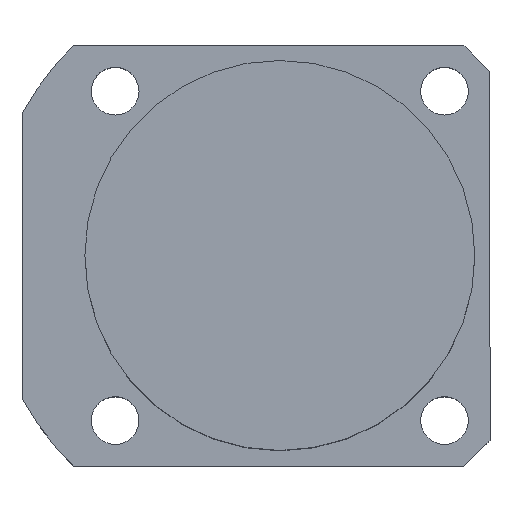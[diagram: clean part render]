
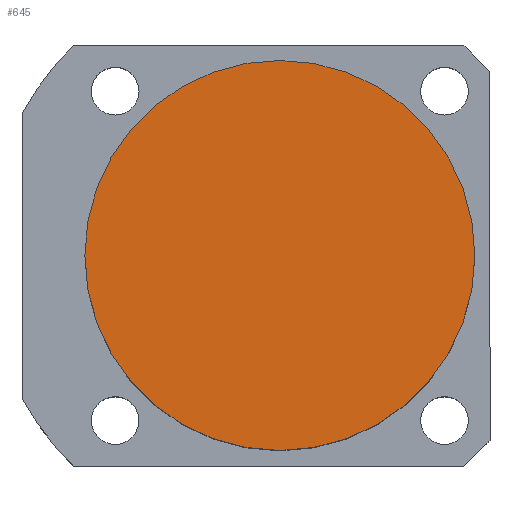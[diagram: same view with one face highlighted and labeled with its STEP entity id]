
A CAD part, top view. The second image highlights one B-rep face of the part: STEP entity #645.
In plain terms, the highlighted planar face has unit normal (0, 0, 1).
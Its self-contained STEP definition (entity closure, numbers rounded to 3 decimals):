
#50 = PLANE ( 'NONE',  #383 ) ;
#168 = VERTEX_POINT ( 'NONE', #1739 ) ;
#201 = CARTESIAN_POINT ( 'NONE',  ( 45., 0., 69.5 ) ) ;
#360 = CARTESIAN_POINT ( 'NONE',  ( 0., 0., 69.5 ) ) ;
#383 = AXIS2_PLACEMENT_3D ( 'NONE', #701, #1545, #1195 ) ;
#645 = ADVANCED_FACE ( 'NONE', ( #2095 ), #50, .T. ) ;
#681 = VERTEX_POINT ( 'NONE', #201 ) ;
#696 = CIRCLE ( 'NONE', #736, 45. ) ;
#701 = CARTESIAN_POINT ( 'NONE',  ( 0., 0., 69.5 ) ) ;
#715 = DIRECTION ( 'NONE',  ( 1., 0., 0. ) ) ;
#736 = AXIS2_PLACEMENT_3D ( 'NONE', #797, #1109, #1986 ) ;
#797 = CARTESIAN_POINT ( 'NONE',  ( 0., 0., 69.5 ) ) ;
#1109 = DIRECTION ( 'NONE',  ( 0., 0., 1. ) ) ;
#1193 = ORIENTED_EDGE ( 'NONE', *, *, #2073, .T. ) ;
#1195 = DIRECTION ( 'NONE',  ( 1., 0., 0. ) ) ;
#1349 = EDGE_LOOP ( 'NONE', ( #1835, #1193 ) ) ;
#1363 = DIRECTION ( 'NONE',  ( 0., 0., 1. ) ) ;
#1397 = EDGE_CURVE ( 'NONE', #168, #681, #696, .T. ) ;
#1545 = DIRECTION ( 'NONE',  ( 0., 0., 1. ) ) ;
#1706 = CIRCLE ( 'NONE', #1710, 45. ) ;
#1710 = AXIS2_PLACEMENT_3D ( 'NONE', #360, #1363, #715 ) ;
#1739 = CARTESIAN_POINT ( 'NONE',  ( -45., 0., 69.5 ) ) ;
#1835 = ORIENTED_EDGE ( 'NONE', *, *, #1397, .T. ) ;
#1986 = DIRECTION ( 'NONE',  ( 1., 0., 0. ) ) ;
#2073 = EDGE_CURVE ( 'NONE', #681, #168, #1706, .T. ) ;
#2095 = FACE_OUTER_BOUND ( 'NONE', #1349, .T. ) ;
